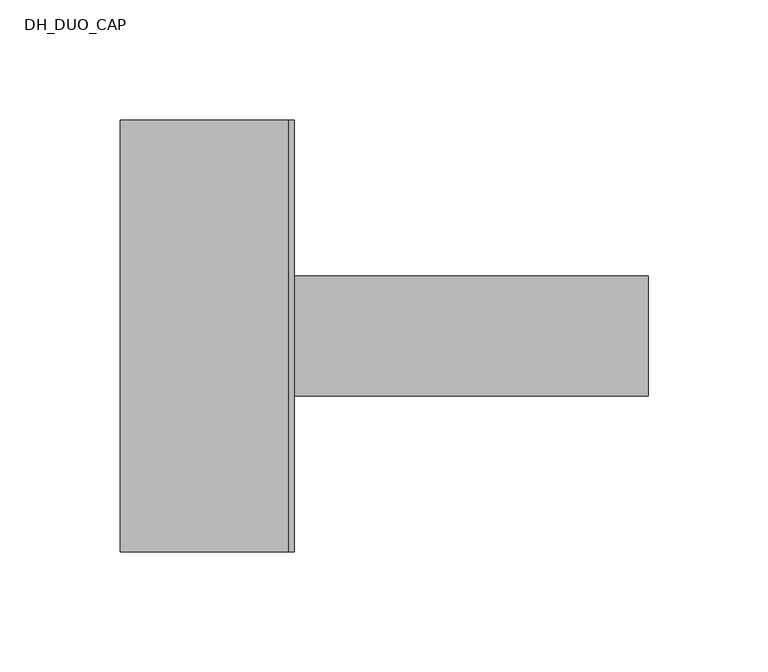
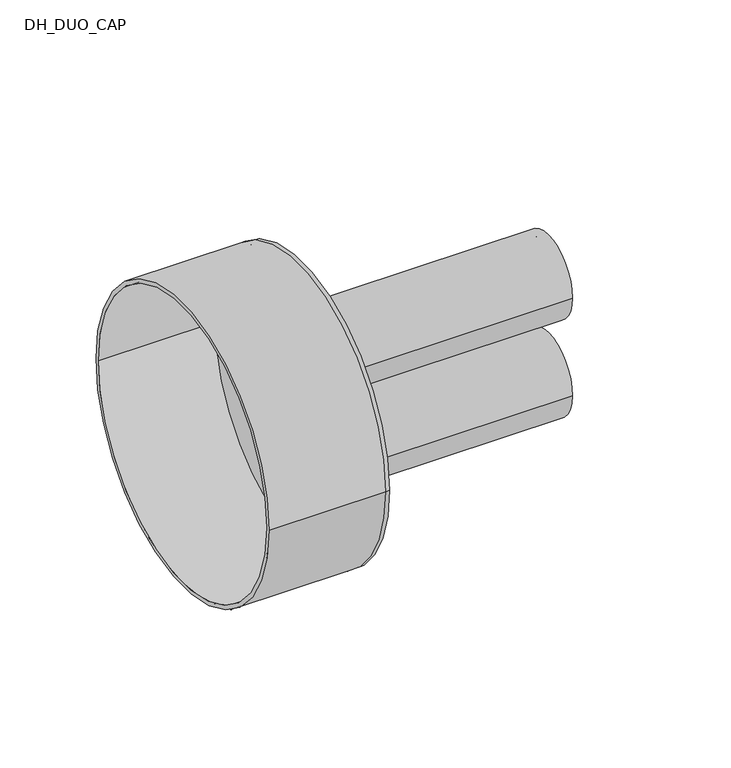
"""IFC4 building model written with IfcOpenShell, lengths in millimetres: pipe fitting geometry, DH_DUO_CAP : RAUVIPEX DUO 11 Heating - Solid Cap."""

from ifc_helpers import new_model, si_unit, point, frame, frame_2d, origin, place, context, project, spatial, polyline, circle_curve, trimmed, segment, composite_curve, outline, extrude, source, transform, mapped, element, save
from ifc_brep_helpers import plane_surface, cylinder_surface, revolved_surface, advanced_brep


def dh_duo_cap_9bd592f2(model_context):
    return source(origin(), model_context, "Body", "SolidModel", [
        extrude(outline(composite_curve([segment(trimmed(circle_curve(frame_2d((0.0, -31.0)), 25.0), [point((-25.0, -31.0))], [point((25.0, -31.0))], False, "CARTESIAN"), True, "CONTINUOUS"), segment(trimmed(circle_curve(frame_2d((0.0, -31.0)), 25.0), [point((25.0, -31.0))], [point((-25.0, -31.0))], False, "CARTESIAN"), True, "CONTINUOUS")], self_intersect=False), holes=[composite_curve([segment(trimmed(circle_curve(frame_2d((0.0, -31.0)), 20.4), [point((-20.4, -31.0))], [point((20.4, -31.0))], True, "CARTESIAN"), True, "CONTINUOUS"), segment(trimmed(circle_curve(frame_2d((0.0, -31.0)), 20.4), [point((20.4, -31.0))], [point((-20.4, -31.0))], True, "CARTESIAN"), True, "CONTINUOUS")], self_intersect=False)]), frame((0.0, 0.0, 0.0), z_axis=(1.0, 0.0, 0.0), x_axis=(0.0, 1.0, 0.0)), (0.0, 0.0, 1.0), 150.0),
        extrude(outline(composite_curve([segment(trimmed(circle_curve(frame_2d((0.0, 31.0)), 25.0), [point((-25.0, 31.0))], [point((25.0, 31.0))], False, "CARTESIAN"), True, "CONTINUOUS"), segment(trimmed(circle_curve(frame_2d((0.0, 31.0)), 25.0), [point((25.0, 31.0))], [point((-25.0, 31.0))], False, "CARTESIAN"), True, "CONTINUOUS")], self_intersect=False), holes=[composite_curve([segment(trimmed(circle_curve(frame_2d((0.0, 31.0)), 20.4), [point((-20.4, 31.0))], [point((20.4, 31.0))], True, "CARTESIAN"), True, "CONTINUOUS"), segment(trimmed(circle_curve(frame_2d((0.0, 31.0)), 20.4), [point((20.4, 31.0))], [point((-20.4, 31.0))], True, "CARTESIAN"), True, "CONTINUOUS")], self_intersect=False)]), frame((0.0, 0.0, 0.0), z_axis=(1.0, 0.0, 0.0), x_axis=(0.0, 1.0, 0.0)), (0.0, 0.0, 1.0), 150.0),
        advanced_brep(
        [(-70.0, -90.0, 0.0), (-70.0, 90.0, 0.0), (-70.0, -87.5, 0.0), (-70.0, 87.5, 0.0), (0.0, -87.5, 0.0), (0.0, 87.5, 0.0), (0.0, -90.0, 0.0), (0.0, 90.0, 0.0), (0.0, 25.0, 31.0), (0.0, -25.0, 31.0), (0.0, 25.0, -31.0), (0.0, -25.0, -31.0), (2.5, -90.0, 0.0), (2.5, 90.0, 0.0), (2.5, -25.0, 31.0), (2.5, 25.0, 31.0), (2.5, -25.0, -31.0), (2.5, 25.0, -31.0)],
        [
            (0, 1, circle_curve(frame((-70.0, 0.0, 0.0), z_axis=(-1.0, 0.0, 0.0), x_axis=(0.0, 1.0, 0.0)), 90.0)),
            (1, 0, circle_curve(frame((-70.0, 0.0, 0.0), z_axis=(-1.0, 0.0, 0.0), x_axis=(0.0, 1.0, 0.0)), 90.0)),
            (2, 3, circle_curve(frame((-70.0, 0.0, 0.0), z_axis=(1.0, 0.0, 0.0), x_axis=(0.0, 1.0, 0.0)), 87.5)),
            (3, 2, circle_curve(frame((-70.0, 0.0, 0.0), z_axis=(1.0, 0.0, 0.0), x_axis=(0.0, 1.0, 0.0)), 87.5)),
            (2, 4),
            (4, 5, circle_curve(frame((0.0, 0.0, 0.0), z_axis=(1.0, 0.0, 0.0), x_axis=(0.0, 1.0, 0.0)), 87.5)),
            (5, 3),
            (5, 4, circle_curve(frame((0.0, 0.0, 0.0), z_axis=(1.0, 0.0, 0.0), x_axis=(0.0, 1.0, 0.0)), 87.5)),
            (0, 6),
            (6, 7, circle_curve(frame((0.0, 0.0, 0.0), z_axis=(-1.0, 0.0, 0.0), x_axis=(0.0, 1.0, 0.0)), 90.0)),
            (7, 1),
            (7, 6, circle_curve(frame((0.0, 0.0, 0.0), z_axis=(-1.0, 0.0, 0.0), x_axis=(0.0, 1.0, 0.0)), 90.0)),
            (8, 9, circle_curve(frame((0.0, 0.0, 31.0), z_axis=(1.0, 0.0, 0.0), x_axis=(0.0, 1.0, 0.0)), 25.0)),
            (9, 8, circle_curve(frame((0.0, 0.0, 31.0), z_axis=(1.0, 0.0, 0.0), x_axis=(0.0, 1.0, 0.0)), 25.0)),
            (10, 11, circle_curve(frame((0.0, 0.0, -31.0), z_axis=(1.0, 0.0, 0.0), x_axis=(0.0, 1.0, 0.0)), 25.0)),
            (11, 10, circle_curve(frame((0.0, 0.0, -31.0), z_axis=(1.0, 0.0, 0.0), x_axis=(0.0, 1.0, 0.0)), 25.0)),
            (12, 13, circle_curve(frame((2.5, 0.0, 0.0), z_axis=(1.0, 0.0, 0.0), x_axis=(0.0, 1.0, 0.0)), 90.0)),
            (13, 12, circle_curve(frame((2.5, 0.0, 0.0), z_axis=(1.0, 0.0, 0.0), x_axis=(0.0, 1.0, 0.0)), 90.0)),
            (14, 15, circle_curve(frame((2.5, 0.0, 31.0), z_axis=(-1.0, 0.0, 0.0), x_axis=(0.0, 1.0, 0.0)), 25.0)),
            (15, 14, circle_curve(frame((2.5, 0.0, 31.0), z_axis=(-1.0, 0.0, 0.0), x_axis=(0.0, 1.0, 0.0)), 25.0)),
            (16, 17, circle_curve(frame((2.5, 0.0, -31.0), z_axis=(-1.0, 0.0, 0.0), x_axis=(0.0, 1.0, 0.0)), 25.0)),
            (17, 16, circle_curve(frame((2.5, 0.0, -31.0), z_axis=(-1.0, 0.0, 0.0), x_axis=(0.0, 1.0, 0.0)), 25.0)),
            (13, 7),
            (6, 12),
            (8, 15),
            (14, 9),
            (10, 17),
            (16, 11),
        ],
        [
            plane_surface(frame((-70.0, 0.0, 0.0), z_axis=(-1.0, 0.0, 0.0), x_axis=(0.0, 0.0, 1.0))),
            revolved_surface(polyline([(0.0, 87.5, 0.0), (-70.0, 87.5, 0.0)]), (-70.0, 0.0, 0.0), (1.0, 0.0, 0.0)),
            cylinder_surface(frame((-70.0, 0.0, 0.0), z_axis=(-1.0, 0.0, 0.0), x_axis=(0.0, 1.0, 0.0)), 90.0),
            plane_surface(frame((0.0, 0.0, 0.0), z_axis=(-1.0, 0.0, 0.0), x_axis=(0.0, 0.0, 1.0))),
            plane_surface(frame((2.5, 0.0, 0.0), z_axis=(1.0, 0.0, 0.0), x_axis=(0.0, 0.0, 1.0))),
            cylinder_surface(frame((0.0, 0.0, 0.0), z_axis=(-1.0, 0.0, 0.0), x_axis=(0.0, 1.0, 0.0)), 90.0),
            revolved_surface(polyline([(0.0, 25.0, 31.0), (2.5, 25.0, 31.0)]), (0.0, 0.0, 31.0), (-1.0, 0.0, 0.0)),
            revolved_surface(polyline([(0.0, 25.0, -31.0), (2.5, 25.0, -31.0)]), (0.0, 0.0, -31.0), (-1.0, 0.0, 0.0)),
        ],
        [
            (0, [[1, 2], [3, 4]]),
            (1, [[-3, 5, 6, 7]]),
            (1, [[-4, -7, 8, -5]]),
            (2, [[-1, 9, 10, 11]]),
            (2, [[-2, -11, 12, -9]]),
            (3, [[-6, -8], [13, 14], [15, 16]]),
            (4, [[17, 18], [19, 20], [21, 22]]),
            (5, [[-18, 23, -10, 24]]),
            (5, [[-17, -24, -12, -23]]),
            (6, [[25, -19, 26, -13]]),
            (6, [[-25, -14, -26, -20]]),
            (7, [[27, -21, 28, -15]]),
            (7, [[-27, -16, -28, -22]]),
        ],
    ),
    ])


if __name__ == "__main__":
    model = new_model("IFC4")
    model_context = context("Model", 3, world=origin())
    ifc_project = project(units=[si_unit("LENGTHUNIT", "METRE", prefix="MILLI")], contexts=[model_context])
    site = spatial("IfcSite", under=ifc_project)
    building = spatial("IfcBuilding", under=site)
    placement = place(None, origin())
    dh_duo_cap_shape = dh_duo_cap_9bd592f2(model_context)
    element("IfcPipeFitting", 1, ObjectType="DH_DUO_CAP : RAUVIPEX DUO 11 Heating - Solid Cap", at=placement, inside=building, context=model_context, shape_type="MappedRepresentation", body=[
        mapped(dh_duo_cap_shape, transform((0.0, 0.0, 0.0), x_axis=(1.0, 0.0, 0.0), y_axis=(0.0, 1.0, 0.0), z_axis=(0.0, 0.0, 1.0))),
    ])
    save(model, "model.ifc")
